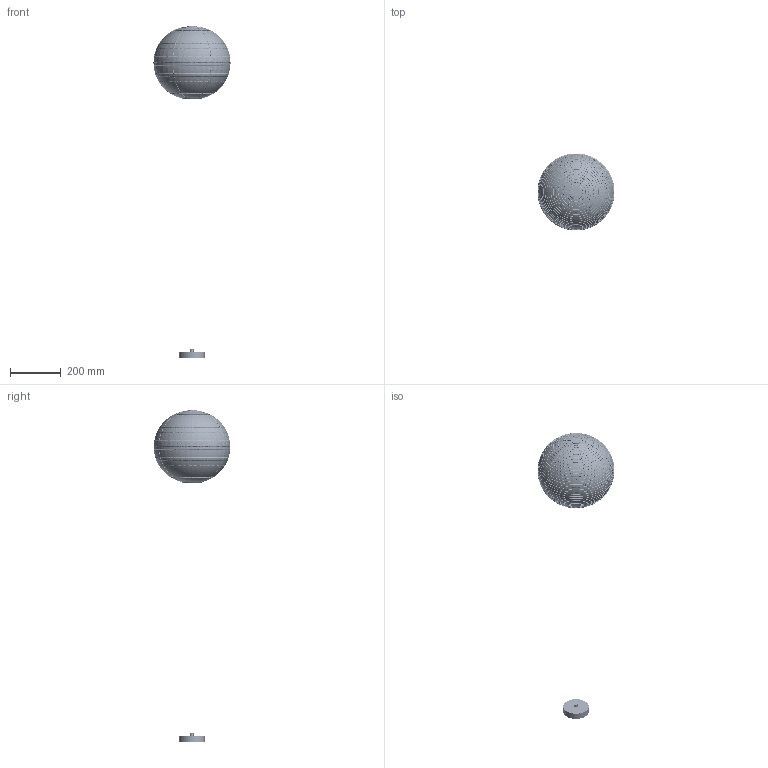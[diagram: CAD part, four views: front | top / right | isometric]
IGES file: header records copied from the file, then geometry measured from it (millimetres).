
Start section: SolidWorks IGES file using analytic representation for surfaces
Global section: file name: F:\燠隴矨\3D\6堎\Rice Paper 45A Pendant Lamp-D30.IGS; native system: SolidWorks 2022; preprocessor: SolidWorks 2022; author: MyPC; date: 230630.101151; units: millimetre
Bounding box: 303.93 x 303.42 x 1309.51 mm (x, y, z)
Surface area: 703953.7 mm2 (no closed solid volume)
Topology: 0 solids, 0 shells, 552 faces, 8255 edges, 8221 vertices
Faces by surface type: bspline 512, revolution 40
